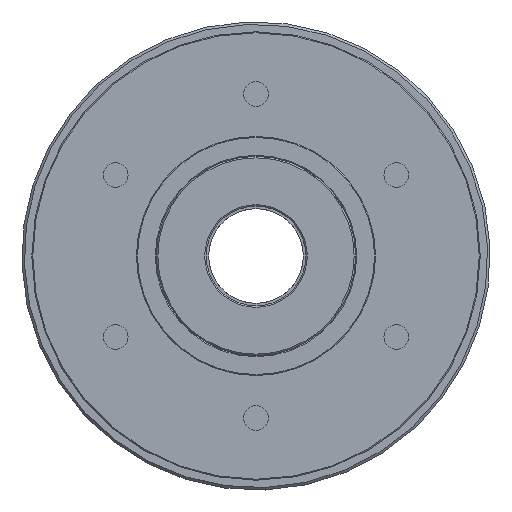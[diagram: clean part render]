
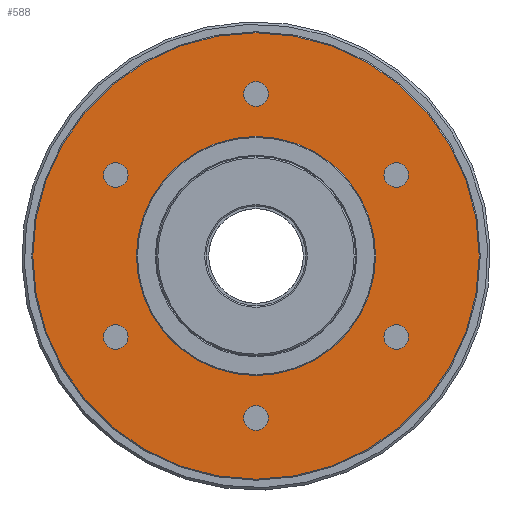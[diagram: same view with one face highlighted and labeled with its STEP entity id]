
A CAD part, left-side view. The second image highlights one B-rep face of the part: STEP entity #588.
In plain terms, the highlighted planar face has unit normal (-1, 0, 0).
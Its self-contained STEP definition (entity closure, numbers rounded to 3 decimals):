
#588 = ADVANCED_FACE( '', ( #1186, #1187, #1188, #1189, #1190, #1191, #1192, #1193 ), #1194, .T. );
#1186 = FACE_BOUND( '', #1860, .T. );
#1187 = FACE_BOUND( '', #1861, .T. );
#1188 = FACE_BOUND( '', #1862, .T. );
#1189 = FACE_BOUND( '', #1863, .T. );
#1190 = FACE_BOUND( '', #1864, .T. );
#1191 = FACE_BOUND( '', #1865, .T. );
#1192 = FACE_OUTER_BOUND( '', #1866, .T. );
#1193 = FACE_BOUND( '', #1867, .T. );
#1194 = PLANE( '', #1868 );
#1860 = EDGE_LOOP( '', ( #2731 ) );
#1861 = EDGE_LOOP( '', ( #2732 ) );
#1862 = EDGE_LOOP( '', ( #2733 ) );
#1863 = EDGE_LOOP( '', ( #2734 ) );
#1864 = EDGE_LOOP( '', ( #2735 ) );
#1865 = EDGE_LOOP( '', ( #2736 ) );
#1866 = EDGE_LOOP( '', ( #2737 ) );
#1867 = EDGE_LOOP( '', ( #2738 ) );
#1868 = AXIS2_PLACEMENT_3D( '', #2739, #2740, #2741 );
#2731 = ORIENTED_EDGE( '', *, *, #3484, .T. );
#2732 = ORIENTED_EDGE( '', *, *, #3339, .T. );
#2733 = ORIENTED_EDGE( '', *, *, #3414, .T. );
#2734 = ORIENTED_EDGE( '', *, *, #3238, .T. );
#2735 = ORIENTED_EDGE( '', *, *, #3485, .T. );
#2736 = ORIENTED_EDGE( '', *, *, #3486, .T. );
#2737 = ORIENTED_EDGE( '', *, *, #3487, .T. );
#2738 = ORIENTED_EDGE( '', *, *, #3448, .F. );
#2739 = CARTESIAN_POINT( '', ( 18.5, 0., 24. ) );
#2740 = DIRECTION( '', ( -1., 0., 0. ) );
#2741 = DIRECTION( '', ( 0., 0., 1. ) );
#3238 = EDGE_CURVE( '', #3625, #3625, #3626, .T. );
#3339 = EDGE_CURVE( '', #3795, #3795, #3796, .T. );
#3414 = EDGE_CURVE( '', #3912, #3912, #3913, .T. );
#3448 = EDGE_CURVE( '', #3964, #3964, #3965, .T. );
#3484 = EDGE_CURVE( '', #4013, #4013, #4014, .T. );
#3485 = EDGE_CURVE( '', #4015, #4015, #4016, .T. );
#3486 = EDGE_CURVE( '', #4017, #4017, #4018, .T. );
#3487 = EDGE_CURVE( '', #4019, #4019, #4020, .T. );
#3625 = VERTEX_POINT( '', #4188 );
#3626 = CIRCLE( '', #4189, 2.459 );
#3795 = VERTEX_POINT( '', #4466 );
#3796 = CIRCLE( '', #4467, 2.459 );
#3912 = VERTEX_POINT( '', #4758 );
#3913 = CIRCLE( '', #4759, 2.459 );
#3964 = VERTEX_POINT( '', #4871 );
#3965 = CIRCLE( '', #4872, 24. );
#4013 = VERTEX_POINT( '', #4926 );
#4014 = CIRCLE( '', #4927, 2.459 );
#4015 = VERTEX_POINT( '', #4928 );
#4016 = CIRCLE( '', #4929, 2.459 );
#4017 = VERTEX_POINT( '', #4930 );
#4018 = CIRCLE( '', #4931, 2.459 );
#4019 = VERTEX_POINT( '', #4932 );
#4020 = CIRCLE( '', #4933, 44.8 );
#4188 = CARTESIAN_POINT( '', ( 18.5, -30.275, -17.479 ) );
#4189 = AXIS2_PLACEMENT_3D( '', #5228, #5229, #5230 );
#4466 = CARTESIAN_POINT( '', ( 18.5, 30.275, -17.479 ) );
#4467 = AXIS2_PLACEMENT_3D( '', #5405, #5406, #5407 );
#4758 = CARTESIAN_POINT( '', ( 18.5, 0., -34.959 ) );
#4759 = AXIS2_PLACEMENT_3D( '', #5502, #5503, #5504 );
#4871 = CARTESIAN_POINT( '', ( 18.5, 0., 24. ) );
#4872 = AXIS2_PLACEMENT_3D( '', #5554, #5555, #5556 );
#4926 = CARTESIAN_POINT( '', ( 18.5, 30.275, 17.479 ) );
#4927 = AXIS2_PLACEMENT_3D( '', #5602, #5603, #5604 );
#4928 = CARTESIAN_POINT( '', ( 18.5, -30.275, 17.479 ) );
#4929 = AXIS2_PLACEMENT_3D( '', #5605, #5606, #5607 );
#4930 = CARTESIAN_POINT( '', ( 18.5, 0., 34.959 ) );
#4931 = AXIS2_PLACEMENT_3D( '', #5608, #5609, #5610 );
#4932 = CARTESIAN_POINT( '', ( 18.5, 0., 44.8 ) );
#4933 = AXIS2_PLACEMENT_3D( '', #5611, #5612, #5613 );
#5228 = CARTESIAN_POINT( '', ( 18.5, -28.146, -16.25 ) );
#5229 = DIRECTION( '', ( 1., 0., 0. ) );
#5230 = DIRECTION( '', ( 0., -0.866, -0.5 ) );
#5405 = CARTESIAN_POINT( '', ( 18.5, 28.146, -16.25 ) );
#5406 = DIRECTION( '', ( 1., 0., 0. ) );
#5407 = DIRECTION( '', ( 0., 0.866, -0.5 ) );
#5502 = CARTESIAN_POINT( '', ( 18.5, 0., -32.5 ) );
#5503 = DIRECTION( '', ( 1., 0., 0. ) );
#5504 = DIRECTION( '', ( 0., 0., -1. ) );
#5554 = CARTESIAN_POINT( '', ( 18.5, 0., 0. ) );
#5555 = DIRECTION( '', ( -1., 0., 0. ) );
#5556 = DIRECTION( '', ( 0., 0., 1. ) );
#5602 = CARTESIAN_POINT( '', ( 18.5, 28.146, 16.25 ) );
#5603 = DIRECTION( '', ( 1., 0., 0. ) );
#5604 = DIRECTION( '', ( 0., 0.866, 0.5 ) );
#5605 = CARTESIAN_POINT( '', ( 18.5, -28.146, 16.25 ) );
#5606 = DIRECTION( '', ( 1., 0., 0. ) );
#5607 = DIRECTION( '', ( 0., -0.866, 0.5 ) );
#5608 = CARTESIAN_POINT( '', ( 18.5, 0., 32.5 ) );
#5609 = DIRECTION( '', ( 1., 0., 0. ) );
#5610 = DIRECTION( '', ( 0., 0., 1. ) );
#5611 = CARTESIAN_POINT( '', ( 18.5, 0., 0. ) );
#5612 = DIRECTION( '', ( -1., 0., 0. ) );
#5613 = DIRECTION( '', ( 0., 0., 1. ) );
